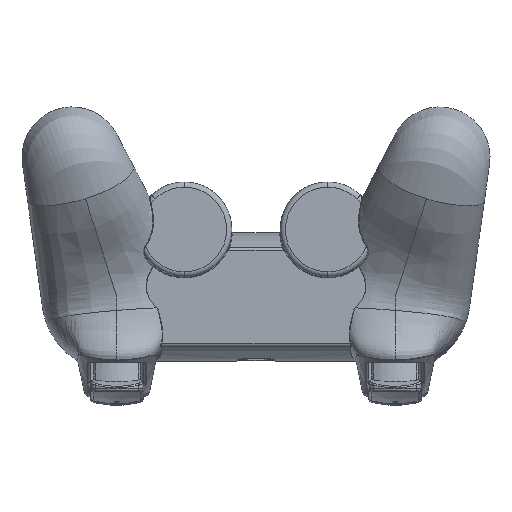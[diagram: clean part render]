
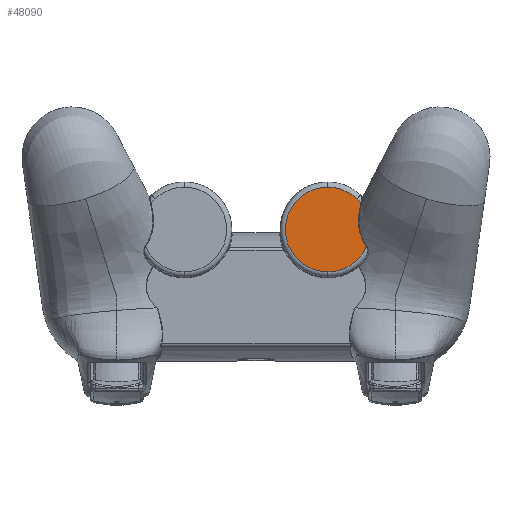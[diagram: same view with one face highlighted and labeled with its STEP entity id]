
A CAD part, front view. The second image highlights one B-rep face of the part: STEP entity #48090.
In plain terms, the highlighted planar face has unit normal (0, -1, 0).
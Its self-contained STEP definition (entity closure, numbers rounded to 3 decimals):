
#2659 = CARTESIAN_POINT ( 'NONE',  ( 122., -56.5, 39. ) ) ;
#2661 = DIRECTION ( 'NONE',  ( 0., 1., 0. ) ) ;
#2663 = DIRECTION ( 'NONE',  ( 0., 0., -1. ) ) ;
#2687 = CARTESIAN_POINT ( 'NONE',  ( 122., -56.5, 39. ) ) ;
#2689 = DIRECTION ( 'NONE',  ( 0., 1., 0. ) ) ;
#2691 = DIRECTION ( 'NONE',  ( 0., 0., -1. ) ) ;
#3657 = CIRCLE ( 'NONE', #3666, 24.5 ) ;
#3666 = AXIS2_PLACEMENT_3D ( 'NONE', #2659, #2661, #2663 ) ;
#3673 = CIRCLE ( 'NONE', #3685, 24.5 ) ;
#3685 = AXIS2_PLACEMENT_3D ( 'NONE', #2687, #2689, #2691 ) ;
#7265 = EDGE_CURVE ( 'NONE', #100691, #100692, #3657, .T. ) ;
#7269 = EDGE_CURVE ( 'NONE', #100694, #100691, #3673, .T. ) ;
#8498 = EDGE_CURVE ( 'NONE', #100692, #101735, #14680, .T. ) ;
#8500 = EDGE_CURVE ( 'NONE', #101737, #100694, #14697, .T. ) ;
#8503 = EDGE_CURVE ( 'NONE', #101735, #101737, #73983, .T. ) ;
#14680 = CIRCLE ( 'NONE', #14693, 24.5 ) ;
#14693 = AXIS2_PLACEMENT_3D ( 'NONE', #107505, #107506, #107507 ) ;
#14697 = CIRCLE ( 'NONE', #14700, 24.5 ) ;
#14700 = AXIS2_PLACEMENT_3D ( 'NONE', #107508, #107509, #107510 ) ;
#20661 = ORIENTED_EDGE ( 'NONE', *, *, #7269, .F. ) ;
#20662 = ORIENTED_EDGE ( 'NONE', *, *, #8498, .F. ) ;
#20663 = ORIENTED_EDGE ( 'NONE', *, *, #8500, .F. ) ;
#20664 = ORIENTED_EDGE ( 'NONE', *, *, #7265, .F. ) ;
#20666 = ORIENTED_EDGE ( 'NONE', *, *, #8503, .F. ) ;
#34091 = EDGE_LOOP ( 'NONE', ( #20662, #20664, #20661, #20663, #20666 ) ) ;
#35946 = FACE_OUTER_BOUND ( 'NONE', #34091, .T. ) ;
#48090 = ADVANCED_FACE ( 'NONE', ( #35946 ), #72636, .T. ) ;
#70643 = AXIS2_PLACEMENT_3D ( 'NONE', #72638, #72640, #72642 ) ;
#71614 = CARTESIAN_POINT ( 'NONE',  ( 122., -56.5, 63.5 ) ) ;
#71615 = CARTESIAN_POINT ( 'NONE',  ( 138.826, -56.5, 56.809 ) ) ;
#71617 = CARTESIAN_POINT ( 'NONE',  ( 122., -56.5, 14.5 ) ) ;
#72636 = PLANE ( 'NONE',  #70643 ) ;
#72638 = CARTESIAN_POINT ( 'NONE',  ( 122., -56.5, 39. ) ) ;
#72640 = DIRECTION ( 'NONE',  ( 0., -1., 0. ) ) ;
#72642 = DIRECTION ( 'NONE',  ( 0., 0., -1. ) ) ;
#73983 = B_SPLINE_CURVE_WITH_KNOTS ( 'NONE', 3,
 ( #107511, #107512, #107513, #107514, #107515, #107516, #107517, #107518, #107519, #107520, #107521, #107522, #107523, #107524, #107525, #107526 ),
 .UNSPECIFIED., .F., .F.,
 ( 4, 2, 2, 2, 2, 2, 2, 4 ),
 ( 0., 0.007, 0.01, 0.013, 0.016, 0.018, 0.02, 0.026 ),
 .UNSPECIFIED. ) ;
#75550 = CARTESIAN_POINT ( 'NONE',  ( 141.178, -56.5, 54.247 ) ) ;
#75551 = CARTESIAN_POINT ( 'NONE',  ( 144.426, -56.5, 29.135 ) ) ;
#100691 = VERTEX_POINT ( 'NONE', #71614 ) ;
#100692 = VERTEX_POINT ( 'NONE', #71615 ) ;
#100694 = VERTEX_POINT ( 'NONE', #71617 ) ;
#101735 = VERTEX_POINT ( 'NONE', #75550 ) ;
#101737 = VERTEX_POINT ( 'NONE', #75551 ) ;
#107505 = CARTESIAN_POINT ( 'NONE',  ( 122., -56.5, 39. ) ) ;
#107506 = DIRECTION ( 'NONE',  ( 0., 1., 0. ) ) ;
#107507 = DIRECTION ( 'NONE',  ( 0., 0., -1. ) ) ;
#107508 = CARTESIAN_POINT ( 'NONE',  ( 122., -56.5, 39. ) ) ;
#107509 = DIRECTION ( 'NONE',  ( 0., 1., 0. ) ) ;
#107510 = DIRECTION ( 'NONE',  ( 0., 0., -1. ) ) ;
#107511 = CARTESIAN_POINT ( 'NONE',  ( 141.178, -56.5, 54.247 ) ) ;
#107512 = CARTESIAN_POINT ( 'NONE',  ( 140.612, -56.5, 52.125 ) ) ;
#107513 = CARTESIAN_POINT ( 'NONE',  ( 140.176, -56.5, 49.98 ) ) ;
#107514 = CARTESIAN_POINT ( 'NONE',  ( 139.82, -56.5, 46.711 ) ) ;
#107515 = CARTESIAN_POINT ( 'NONE',  ( 139.752, -56.5, 45.61 ) ) ;
#107516 = CARTESIAN_POINT ( 'NONE',  ( 139.731, -56.5, 43.426 ) ) ;
#107517 = CARTESIAN_POINT ( 'NONE',  ( 139.778, -56.5, 42.339 ) ) ;
#107518 = CARTESIAN_POINT ( 'NONE',  ( 140.001, -56.5, 40.176 ) ) ;
#107519 = CARTESIAN_POINT ( 'NONE',  ( 140.175, -56.5, 39.1 ) ) ;
#107520 = CARTESIAN_POINT ( 'NONE',  ( 140.544, -56.5, 37.495 ) ) ;
#107521 = CARTESIAN_POINT ( 'NONE',  ( 140.686, -56.5, 36.961 ) ) ;
#107522 = CARTESIAN_POINT ( 'NONE',  ( 141., -56.5, 35.911 ) ) ;
#107523 = CARTESIAN_POINT ( 'NONE',  ( 141.174, -56.5, 35.394 ) ) ;
#107524 = CARTESIAN_POINT ( 'NONE',  ( 142.125, -56.5, 32.847 ) ) ;
#107525 = CARTESIAN_POINT ( 'NONE',  ( 143.151, -56.5, 30.933 ) ) ;
#107526 = CARTESIAN_POINT ( 'NONE',  ( 144.426, -56.5, 29.135 ) ) ;
